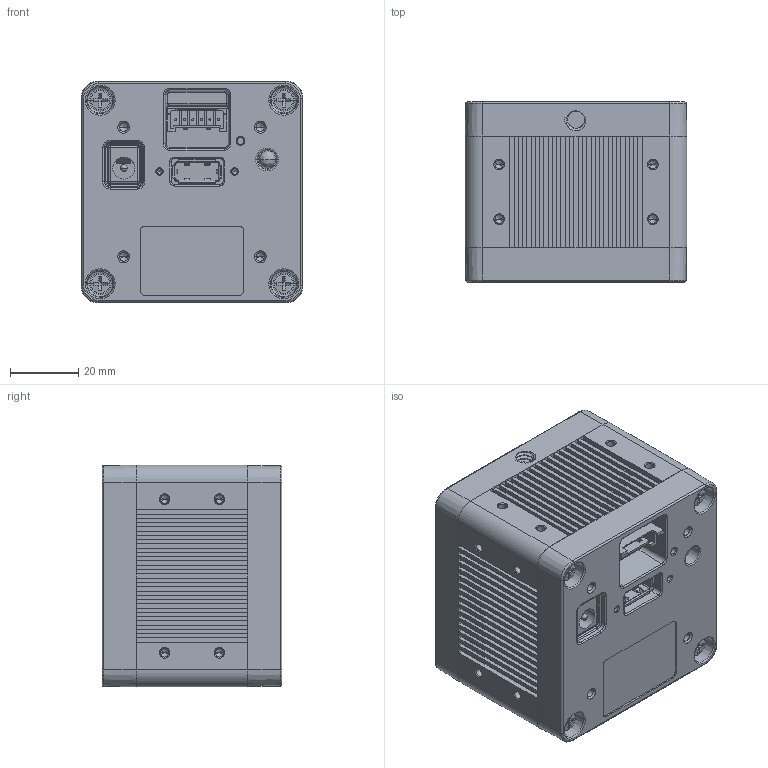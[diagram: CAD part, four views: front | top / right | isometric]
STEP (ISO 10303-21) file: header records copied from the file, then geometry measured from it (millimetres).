
FILE_DESCRIPTION((''),'2;1');
FILE_NAME('DCAM550_U_PRT','2021-07-19T13:27:47',('Lincoln'),(''),'CREO PARAMETRIC BY PTC INC, 2018260','CREO PARAMETRIC BY PTC INC, 2018260','');
FILE_SCHEMA(('AP203_CONFIGURATION_CONTROLLED_3D_DESIGN_OF_MECHANICAL_PARTS_AND_ASSEMBLIES_MIM_LF { 1 0 10303 403 2 1 2 }'));
Products named in the file (1): DCAM550_U_PRT
Bounding box: 65 x 52.7 x 65 mm (x, y, z)
Volume: 191766.3 mm3; surface area: 45744.4 mm2
Topology: 3 solids, 8 shells, 2087 faces, 5634 edges, 3572 vertices
Faces by surface type: plane 1139, cone 306, cylinder 297, bspline 249, torus 82, sphere 14
Entity records: 102760 total; most frequent: CARTESIAN_POINT 21515, ORIENTED_EDGE 11168, DIRECTION 10415, PRESENTATION_STYLE_ASSIGNMENT 6618, STYLED_ITEM 5588, CURVE_STYLE 5584, EDGE_CURVE 5584, VECTOR 3704
